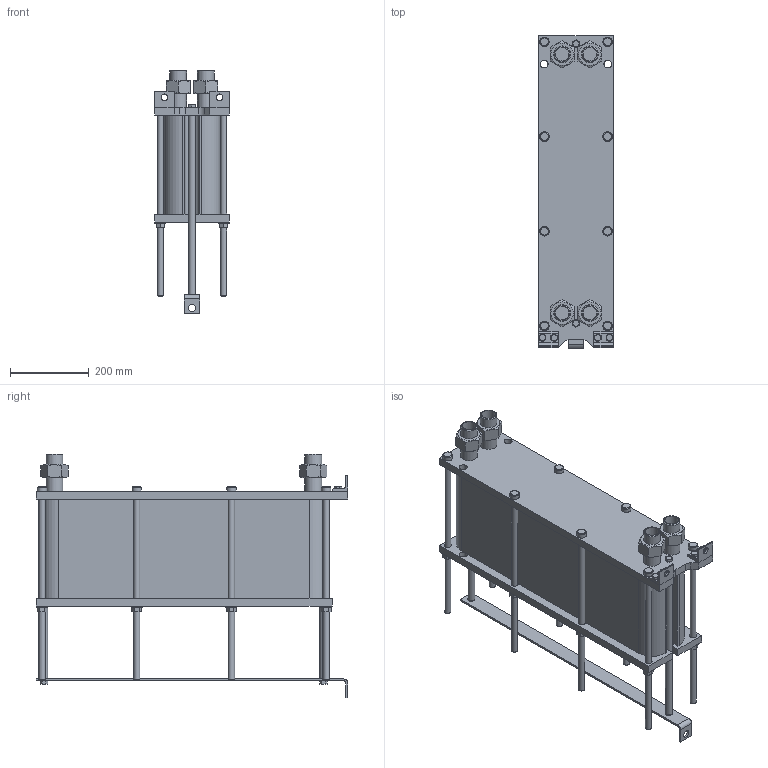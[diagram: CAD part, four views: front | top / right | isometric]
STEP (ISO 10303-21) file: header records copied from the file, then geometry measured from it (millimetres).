
FILE_DESCRIPTION(/* description */ (''),/* implementation_level */ '2;1');
FILE_NAME(/* name */ 'C:\Users\zhuro\Desktop\ENCO\TO\ЭН-008\ЭН-0,5-008-81-1.stp',/* time_stamp */ '2022-06-06T10:52:42+03:00',/* author */ ('zhuro'),/* organization */ (''),/* preprocessor_version */ 'ST-DEVELOPER v18.1',/* originating_system */ 'Autodesk Inventor 2022',/* authorisation */ '');
FILE_SCHEMA (('AUTOMOTIVE_DESIGN { 1 0 10303 214 3 1 1 }'));
Length unit declared in the file: millimetre
Products named in the file (1): ЭН-0,5-008-81-1
Bounding box: 190 x 790 x 617.8 mm (x, y, z)
Volume: 32487026.7 mm3; surface area: 1860807 mm2
Topology: 40 solids, 40 shells, 428 faces, 924 edges, 606 vertices
Faces by surface type: plane 273, cylinder 109, cone 40, torus 6
Full cylindrical faces by diameter (mm): 12 x6, 14 x2, 16 x20, 17 x8, 18 x19, 20 x5, 24 x8, 28 x8, 34.3 x8, 42.3 x8
Entity records: 15843 total; most frequent: CARTESIAN_POINT 5991, DIRECTION 1984, ORIENTED_EDGE 1848, EDGE_CURVE 924, AXIS2_PLACEMENT_3D 715, VERTEX_POINT 606, LINE 554, VECTOR 554
